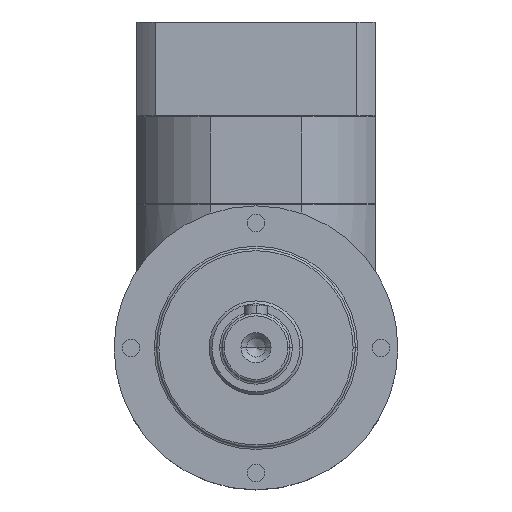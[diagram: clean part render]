
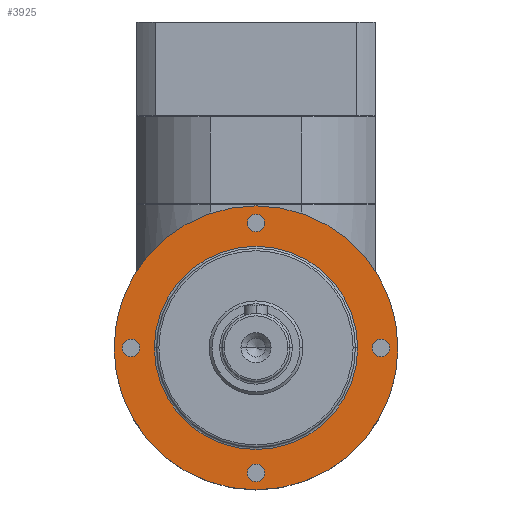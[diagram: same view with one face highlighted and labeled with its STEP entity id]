
A CAD part, top view. The second image highlights one B-rep face of the part: STEP entity #3925.
In plain terms, the highlighted planar face has unit normal (0, 0, 1).
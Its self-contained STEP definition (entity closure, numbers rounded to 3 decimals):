
#31 = ORIENTED_EDGE ( 'NONE', *, *, #1571, .T. ) ;
#129 = CARTESIAN_POINT ( 'NONE',  ( 0., 22., 15. ) ) ;
#145 = AXIS2_PLACEMENT_3D ( 'NONE', #3139, #3524, #1262 ) ;
#223 = VERTEX_POINT ( 'NONE', #4012 ) ;
#232 = ORIENTED_EDGE ( 'NONE', *, *, #3657, .F. ) ;
#240 = ORIENTED_EDGE ( 'NONE', *, *, #2250, .F. ) ;
#281 = CARTESIAN_POINT ( 'NONE',  ( 22., 0., 15. ) ) ;
#351 = CARTESIAN_POINT ( 'NONE',  ( -23.55, 0., 15. ) ) ;
#370 = ORIENTED_EDGE ( 'NONE', *, *, #1454, .F. ) ;
#410 = DIRECTION ( 'NONE',  ( 1., 0., 0. ) ) ;
#480 = EDGE_LOOP ( 'NONE', ( #1444, #2932 ) ) ;
#551 = EDGE_LOOP ( 'NONE', ( #31, #2044 ) ) ;
#575 = CARTESIAN_POINT ( 'NONE',  ( 25., 0., 15. ) ) ;
#597 = ORIENTED_EDGE ( 'NONE', *, *, #2591, .F. ) ;
#676 = DIRECTION ( 'NONE',  ( 1., 0., 0. ) ) ;
#717 = VERTEX_POINT ( 'NONE', #1768 ) ;
#732 = DIRECTION ( 'NONE',  ( 0., 0., 1. ) ) ;
#733 = CIRCLE ( 'NONE', #1884, 1.55 ) ;
#799 = EDGE_CURVE ( 'NONE', #2367, #4389, #2061, .T. ) ;
#807 = CARTESIAN_POINT ( 'NONE',  ( -17.9, 0., 15. ) ) ;
#825 = EDGE_CURVE ( 'NONE', #1186, #4615, #3516, .T. ) ;
#1011 = VERTEX_POINT ( 'NONE', #3584 ) ;
#1018 = DIRECTION ( 'NONE',  ( 1., 0., 0. ) ) ;
#1048 = CARTESIAN_POINT ( 'NONE',  ( 0., 0., 15. ) ) ;
#1080 = FACE_OUTER_BOUND ( 'NONE', #1273, .T. ) ;
#1133 = CARTESIAN_POINT ( 'NONE',  ( 0., 0., 15. ) ) ;
#1186 = VERTEX_POINT ( 'NONE', #351 ) ;
#1208 = ORIENTED_EDGE ( 'NONE', *, *, #2186, .F. ) ;
#1230 = CARTESIAN_POINT ( 'NONE',  ( -1.55, 22., 15. ) ) ;
#1262 = DIRECTION ( 'NONE',  ( 1., 0., 0. ) ) ;
#1273 = EDGE_LOOP ( 'NONE', ( #4330, #2226 ) ) ;
#1285 = DIRECTION ( 'NONE',  ( 1., 0., 0. ) ) ;
#1444 = ORIENTED_EDGE ( 'NONE', *, *, #2221, .F. ) ;
#1454 = EDGE_CURVE ( 'NONE', #4748, #3197, #2117, .T. ) ;
#1472 = DIRECTION ( 'NONE',  ( 0., 0., -1. ) ) ;
#1530 = AXIS2_PLACEMENT_3D ( 'NONE', #2053, #2014, #4645 ) ;
#1571 = EDGE_CURVE ( 'NONE', #4389, #2367, #3337, .T. ) ;
#1579 = DIRECTION ( 'NONE',  ( 0., 0., 1. ) ) ;
#1624 = ORIENTED_EDGE ( 'NONE', *, *, #1959, .F. ) ;
#1644 = AXIS2_PLACEMENT_3D ( 'NONE', #4365, #4726, #4428 ) ;
#1768 = CARTESIAN_POINT ( 'NONE',  ( 20.45, 0., 15. ) ) ;
#1792 = DIRECTION ( 'NONE',  ( 1., 0., 0. ) ) ;
#1817 = AXIS2_PLACEMENT_3D ( 'NONE', #2583, #3011, #3333 ) ;
#1884 = AXIS2_PLACEMENT_3D ( 'NONE', #129, #3940, #1285 ) ;
#1920 = CARTESIAN_POINT ( 'NONE',  ( 22., 0., 15. ) ) ;
#1959 = EDGE_CURVE ( 'NONE', #3980, #223, #733, .T. ) ;
#1997 = DIRECTION ( 'NONE',  ( 1., 0., 0. ) ) ;
#2011 = AXIS2_PLACEMENT_3D ( 'NONE', #1048, #4043, #1018 ) ;
#2014 = DIRECTION ( 'NONE',  ( 0., 0., 1. ) ) ;
#2044 = ORIENTED_EDGE ( 'NONE', *, *, #799, .T. ) ;
#2053 = CARTESIAN_POINT ( 'NONE',  ( 0., 0., 15. ) ) ;
#2061 = CIRCLE ( 'NONE', #2011, 17.9 ) ;
#2117 = CIRCLE ( 'NONE', #145, 1.55 ) ;
#2186 = EDGE_CURVE ( 'NONE', #3197, #4748, #4576, .T. ) ;
#2221 = EDGE_CURVE ( 'NONE', #4615, #1186, #4280, .T. ) ;
#2226 = ORIENTED_EDGE ( 'NONE', *, *, #3778, .T. ) ;
#2227 = CIRCLE ( 'NONE', #1530, 25. ) ;
#2250 = EDGE_CURVE ( 'NONE', #1011, #717, #2509, .T. ) ;
#2367 = VERTEX_POINT ( 'NONE', #807 ) ;
#2370 = FACE_BOUND ( 'NONE', #551, .T. ) ;
#2408 = CARTESIAN_POINT ( 'NONE',  ( -20.45, 0., 15. ) ) ;
#2414 = EDGE_CURVE ( 'NONE', #4582, #4225, #2227, .T. ) ;
#2509 = CIRCLE ( 'NONE', #3532, 1.55 ) ;
#2558 = EDGE_LOOP ( 'NONE', ( #232, #1624 ) ) ;
#2573 = EDGE_LOOP ( 'NONE', ( #240, #597 ) ) ;
#2583 = CARTESIAN_POINT ( 'NONE',  ( 0., -22., 15. ) ) ;
#2591 = EDGE_CURVE ( 'NONE', #717, #1011, #3559, .T. ) ;
#2932 = ORIENTED_EDGE ( 'NONE', *, *, #825, .F. ) ;
#3004 = CARTESIAN_POINT ( 'NONE',  ( 17.9, 0., 15. ) ) ;
#3005 = CARTESIAN_POINT ( 'NONE',  ( -22., 0., 15. ) ) ;
#3011 = DIRECTION ( 'NONE',  ( 0., 0., 1. ) ) ;
#3071 = CIRCLE ( 'NONE', #1644, 1.55 ) ;
#3122 = EDGE_LOOP ( 'NONE', ( #370, #1208 ) ) ;
#3139 = CARTESIAN_POINT ( 'NONE',  ( 0., -22., 15. ) ) ;
#3191 = FACE_BOUND ( 'NONE', #3122, .T. ) ;
#3197 = VERTEX_POINT ( 'NONE', #3353 ) ;
#3322 = CARTESIAN_POINT ( 'NONE',  ( -22., 0., 15. ) ) ;
#3333 = DIRECTION ( 'NONE',  ( 1., 0., 0. ) ) ;
#3337 = CIRCLE ( 'NONE', #3845, 17.9 ) ;
#3353 = CARTESIAN_POINT ( 'NONE',  ( -1.55, -22., 15. ) ) ;
#3358 = DIRECTION ( 'NONE',  ( 1., 0., 0. ) ) ;
#3374 = DIRECTION ( 'NONE',  ( 1., 0., 0. ) ) ;
#3415 = AXIS2_PLACEMENT_3D ( 'NONE', #4141, #4830, #4484 ) ;
#3516 = CIRCLE ( 'NONE', #4020, 1.55 ) ;
#3524 = DIRECTION ( 'NONE',  ( 0., 0., 1. ) ) ;
#3532 = AXIS2_PLACEMENT_3D ( 'NONE', #1920, #1579, #410 ) ;
#3559 = CIRCLE ( 'NONE', #3948, 1.55 ) ;
#3584 = CARTESIAN_POINT ( 'NONE',  ( 23.55, 0., 15. ) ) ;
#3639 = DIRECTION ( 'NONE',  ( 0., 0., 1. ) ) ;
#3657 = EDGE_CURVE ( 'NONE', #223, #3980, #3071, .T. ) ;
#3732 = CARTESIAN_POINT ( 'NONE',  ( 0., 0., 15. ) ) ;
#3778 = EDGE_CURVE ( 'NONE', #4225, #4582, #4316, .T. ) ;
#3821 = AXIS2_PLACEMENT_3D ( 'NONE', #3005, #732, #3374 ) ;
#3845 = AXIS2_PLACEMENT_3D ( 'NONE', #3732, #1472, #3358 ) ;
#3925 = ADVANCED_FACE ( 'NONE', ( #2370, #4262, #3191, #4024, #4090, #1080 ), #4191, .T. ) ;
#3940 = DIRECTION ( 'NONE',  ( 0., 0., 1. ) ) ;
#3948 = AXIS2_PLACEMENT_3D ( 'NONE', #281, #4431, #1792 ) ;
#3980 = VERTEX_POINT ( 'NONE', #1230 ) ;
#4012 = CARTESIAN_POINT ( 'NONE',  ( 1.55, 22., 15. ) ) ;
#4020 = AXIS2_PLACEMENT_3D ( 'NONE', #3322, #3639, #676 ) ;
#4024 = FACE_BOUND ( 'NONE', #480, .T. ) ;
#4043 = DIRECTION ( 'NONE',  ( 0., 0., -1. ) ) ;
#4090 = FACE_BOUND ( 'NONE', #2558, .T. ) ;
#4141 = CARTESIAN_POINT ( 'NONE',  ( 0., 0., 15. ) ) ;
#4191 = PLANE ( 'NONE',  #4248 ) ;
#4195 = CARTESIAN_POINT ( 'NONE',  ( -25., 0., 15. ) ) ;
#4225 = VERTEX_POINT ( 'NONE', #575 ) ;
#4248 = AXIS2_PLACEMENT_3D ( 'NONE', #1133, #4259, #1997 ) ;
#4259 = DIRECTION ( 'NONE',  ( 0., 0., 1. ) ) ;
#4262 = FACE_BOUND ( 'NONE', #2573, .T. ) ;
#4280 = CIRCLE ( 'NONE', #3821, 1.55 ) ;
#4316 = CIRCLE ( 'NONE', #3415, 25. ) ;
#4325 = CARTESIAN_POINT ( 'NONE',  ( 1.55, -22., 15. ) ) ;
#4330 = ORIENTED_EDGE ( 'NONE', *, *, #2414, .T. ) ;
#4365 = CARTESIAN_POINT ( 'NONE',  ( 0., 22., 15. ) ) ;
#4389 = VERTEX_POINT ( 'NONE', #3004 ) ;
#4428 = DIRECTION ( 'NONE',  ( 1., 0., 0. ) ) ;
#4431 = DIRECTION ( 'NONE',  ( 0., 0., 1. ) ) ;
#4484 = DIRECTION ( 'NONE',  ( 1., 0., 0. ) ) ;
#4576 = CIRCLE ( 'NONE', #1817, 1.55 ) ;
#4582 = VERTEX_POINT ( 'NONE', #4195 ) ;
#4615 = VERTEX_POINT ( 'NONE', #2408 ) ;
#4645 = DIRECTION ( 'NONE',  ( 1., 0., 0. ) ) ;
#4726 = DIRECTION ( 'NONE',  ( 0., 0., 1. ) ) ;
#4748 = VERTEX_POINT ( 'NONE', #4325 ) ;
#4830 = DIRECTION ( 'NONE',  ( 0., 0., 1. ) ) ;
